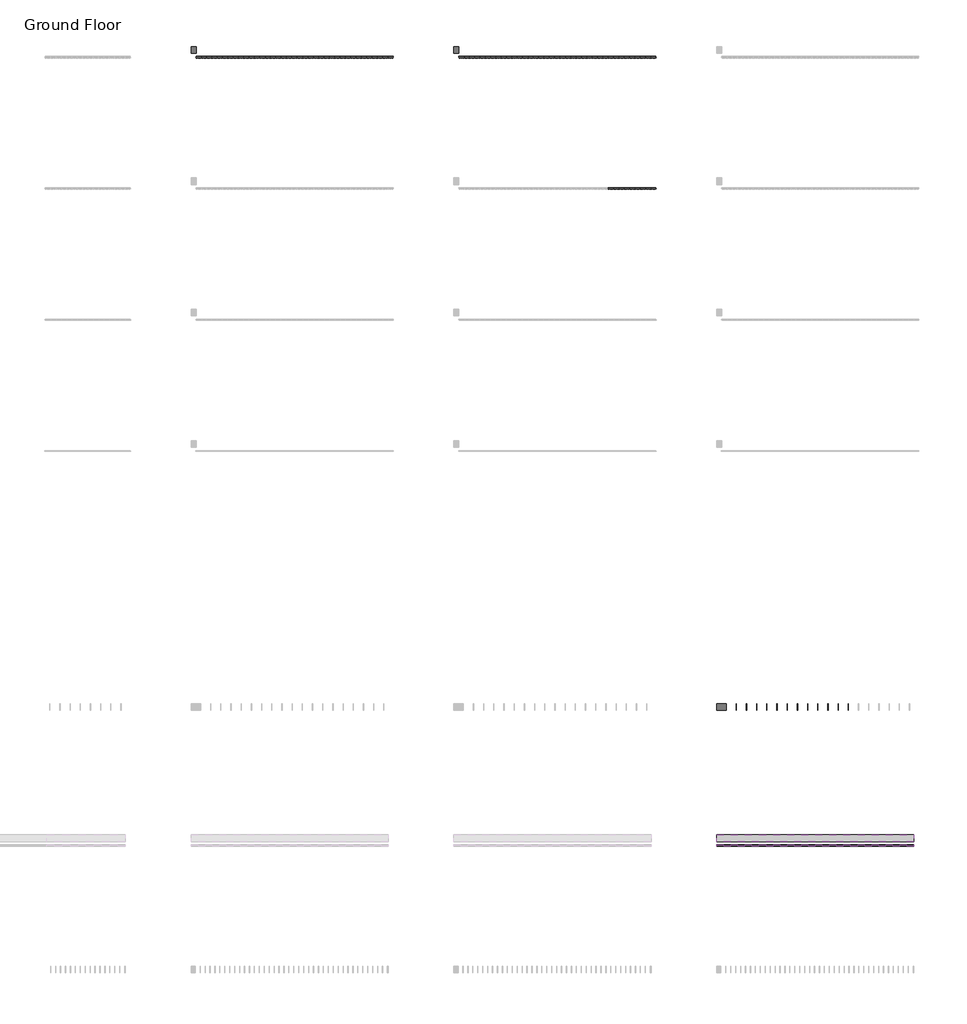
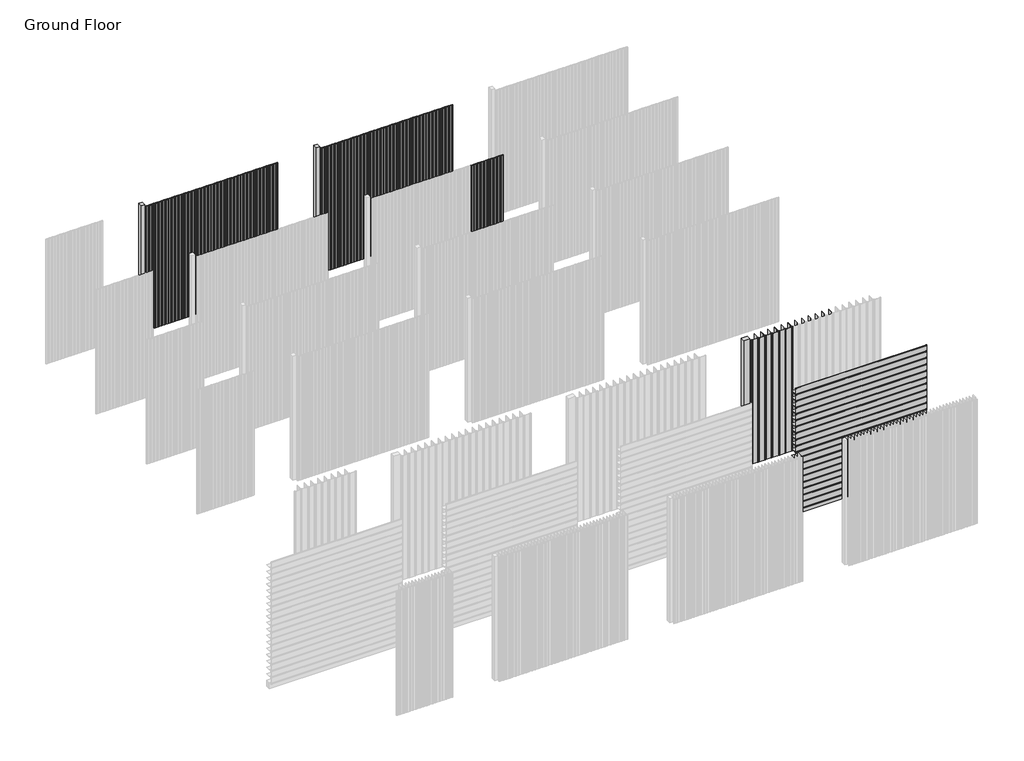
# One storey, part 43 of 350: 108 members, 34 plates.
"""IFC4 building model written with IfcOpenShell, lengths in millimetres."""

from ifc_helpers import new_model, si_unit, origin, place, context, project, spatial, transform, mapped, element, save
from components import rectangular_mullion_a9feb706, rectangular_mullion_624eee80, rectangular_mullion_eca9a012, empty_system_panel_empty_02c6fd44, empty_system_panel_empty_27b459cb, empty_system_panel_empty_b4bf5bb1, empty_system_panel_empty_81d7e91e, empty_system_panel_empty_cbd4e42b

model = new_model("IFC4")

# Units and contexts
model_context = context("Model", 3, world=origin())
ifc_project = project(units=[si_unit("LENGTHUNIT", "METRE", prefix="MILLI")], contexts=[model_context])

# Site, building, storey
site = spatial("IfcSite", under=ifc_project)
building = spatial("IfcBuilding", under=site)
storey = spatial("IfcBuildingStorey", under=building, Name="Ground Floor", Elevation=0.0)

# Members
placement = place(None, origin())
rectangular_mullion_shape = rectangular_mullion_a9feb706(model_context)
element("IfcMember", 1, ObjectType="Rectangular Mullion : Cladding_Aluminium_Modinex_AluSelekta_Channel_155_WhiteOak", at=placement, inside=storey, context=model_context, shape_type="MappedRepresentation", body=[
    mapped(rectangular_mullion_shape, transform((51916.4361639, 16968.2978302, 155.0), x_axis=(0.0, 0.0, 1.0), y_axis=(0.0, -1.0, 0.0), z_axis=(1.0, 0.0, 0.0))),
])
element("IfcMember", 2, ObjectType="Rectangular Mullion : Cladding_Aluminium_Modinex_AluSelekta_Channel_155_WhiteOak", at=placement, inside=storey, context=model_context, shape_type="MappedRepresentation", body=[
    mapped(rectangular_mullion_shape, transform((51916.4361639, 16968.2978302, 310.0), x_axis=(0.0, 0.0, 1.0), y_axis=(0.0, -1.0, 0.0), z_axis=(1.0, 0.0, 0.0))),
])
element("IfcMember", 3, ObjectType="Rectangular Mullion : Cladding_Aluminium_Modinex_AluSelekta_Channel_155_WhiteOak", at=placement, inside=storey, context=model_context, shape_type="MappedRepresentation", body=[
    mapped(rectangular_mullion_shape, transform((51916.4361639, 16968.2978302, 465.0), x_axis=(0.0, 0.0, 1.0), y_axis=(0.0, -1.0, 0.0), z_axis=(1.0, 0.0, 0.0))),
])
element("IfcMember", 4, ObjectType="Rectangular Mullion : Cladding_Aluminium_Modinex_AluSelekta_Channel_155_WhiteOak", at=placement, inside=storey, context=model_context, shape_type="MappedRepresentation", body=[
    mapped(rectangular_mullion_shape, transform((51916.4361639, 16968.2978302, 620.0), x_axis=(0.0, 0.0, 1.0), y_axis=(0.0, -1.0, 0.0), z_axis=(1.0, 0.0, 0.0))),
])
element("IfcMember", 5, ObjectType="Rectangular Mullion : Cladding_Aluminium_Modinex_AluSelekta_Channel_155_WhiteOak", at=placement, inside=storey, context=model_context, shape_type="MappedRepresentation", body=[
    mapped(rectangular_mullion_shape, transform((51916.4361639, 16968.2978302, 775.0), x_axis=(0.0, 0.0, 1.0), y_axis=(0.0, -1.0, 0.0), z_axis=(1.0, 0.0, 0.0))),
])
element("IfcMember", 6, ObjectType="Rectangular Mullion : Cladding_Aluminium_Modinex_AluSelekta_Channel_155_WhiteOak", at=placement, inside=storey, context=model_context, shape_type="MappedRepresentation", body=[
    mapped(rectangular_mullion_shape, transform((51916.4361639, 16968.2978302, 930.0), x_axis=(0.0, 0.0, 1.0), y_axis=(0.0, -1.0, 0.0), z_axis=(1.0, 0.0, 0.0))),
])
element("IfcMember", 7, ObjectType="Rectangular Mullion : Cladding_Aluminium_Modinex_AluSelekta_Channel_155_WhiteOak", at=placement, inside=storey, context=model_context, shape_type="MappedRepresentation", body=[
    mapped(rectangular_mullion_shape, transform((51916.4361639, 16968.2978302, 1085.0), x_axis=(0.0, 0.0, 1.0), y_axis=(0.0, -1.0, 0.0), z_axis=(1.0, 0.0, 0.0))),
])
element("IfcMember", 8, ObjectType="Rectangular Mullion : Cladding_Aluminium_Modinex_AluSelekta_Channel_155_WhiteOak", at=placement, inside=storey, context=model_context, shape_type="MappedRepresentation", body=[
    mapped(rectangular_mullion_shape, transform((51916.4361639, 16968.2978302, 1240.0), x_axis=(0.0, 0.0, 1.0), y_axis=(0.0, -1.0, 0.0), z_axis=(1.0, 0.0, 0.0))),
])
element("IfcMember", 9, ObjectType="Rectangular Mullion : Cladding_Aluminium_Modinex_AluSelekta_Channel_155_WhiteOak", at=placement, inside=storey, context=model_context, shape_type="MappedRepresentation", body=[
    mapped(rectangular_mullion_shape, transform((51916.4361639, 16968.2978302, 1395.0), x_axis=(0.0, 0.0, 1.0), y_axis=(0.0, -1.0, 0.0), z_axis=(1.0, 0.0, 0.0))),
])
element("IfcMember", 10, ObjectType="Rectangular Mullion : Cladding_Aluminium_Modinex_AluSelekta_Channel_155_WhiteOak", at=placement, inside=storey, context=model_context, shape_type="MappedRepresentation", body=[
    mapped(rectangular_mullion_shape, transform((51916.4361639, 16968.2978302, 1550.0), x_axis=(0.0, 0.0, 1.0), y_axis=(0.0, -1.0, 0.0), z_axis=(1.0, 0.0, 0.0))),
])
element("IfcMember", 11, ObjectType="Rectangular Mullion : Cladding_Aluminium_Modinex_AluSelekta_Channel_155_WhiteOak", at=placement, inside=storey, context=model_context, shape_type="MappedRepresentation", body=[
    mapped(rectangular_mullion_shape, transform((51916.4361639, 16968.2978302, 1705.0), x_axis=(0.0, 0.0, 1.0), y_axis=(0.0, -1.0, 0.0), z_axis=(1.0, 0.0, 0.0))),
])
element("IfcMember", 12, ObjectType="Rectangular Mullion : Cladding_Aluminium_Modinex_AluSelekta_Channel_155_WhiteOak", at=placement, inside=storey, context=model_context, shape_type="MappedRepresentation", body=[
    mapped(rectangular_mullion_shape, transform((51916.4361639, 16968.2978302, 1860.0), x_axis=(0.0, 0.0, 1.0), y_axis=(0.0, -1.0, 0.0), z_axis=(1.0, 0.0, 0.0))),
])
element("IfcMember", 13, ObjectType="Rectangular Mullion : Cladding_Aluminium_Modinex_AluSelekta_Channel_155_WhiteOak", at=placement, inside=storey, context=model_context, shape_type="MappedRepresentation", body=[
    mapped(rectangular_mullion_shape, transform((51916.4361639, 16968.2978302, 2015.0), x_axis=(0.0, 0.0, 1.0), y_axis=(0.0, -1.0, 0.0), z_axis=(1.0, 0.0, 0.0))),
])
element("IfcMember", 14, ObjectType="Rectangular Mullion : Cladding_Aluminium_Modinex_AluSelekta_Channel_155_WhiteOak", at=placement, inside=storey, context=model_context, shape_type="MappedRepresentation", body=[
    mapped(rectangular_mullion_shape, transform((51916.4361639, 16968.2978302, 2170.0), x_axis=(0.0, 0.0, 1.0), y_axis=(0.0, -1.0, 0.0), z_axis=(1.0, 0.0, 0.0))),
])
element("IfcMember", 15, ObjectType="Rectangular Mullion : Cladding_Aluminium_Modinex_AluSelekta_Channel_155_WhiteOak", at=placement, inside=storey, context=model_context, shape_type="MappedRepresentation", body=[
    mapped(rectangular_mullion_shape, transform((51916.4361639, 16968.2978302, 2325.0), x_axis=(0.0, 0.0, 1.0), y_axis=(0.0, -1.0, 0.0), z_axis=(1.0, 0.0, 0.0))),
])
element("IfcMember", 16, ObjectType="Rectangular Mullion : Cladding_Aluminium_Modinex_AluSelekta_Channel_155_WhiteOak", at=placement, inside=storey, context=model_context, shape_type="MappedRepresentation", body=[
    mapped(rectangular_mullion_shape, transform((51916.4361639, 16968.2978302, 2480.0), x_axis=(0.0, 0.0, 1.0), y_axis=(0.0, -1.0, 0.0), z_axis=(1.0, 0.0, 0.0))),
])
element("IfcMember", 17, ObjectType="Rectangular Mullion : Cladding_Aluminium_Modinex_AluSelekta_Channel_155_WhiteOak", at=placement, inside=storey, context=model_context, shape_type="MappedRepresentation", body=[
    mapped(rectangular_mullion_shape, transform((51916.4361639, 16968.2978302, 2635.0), x_axis=(0.0, 0.0, 1.0), y_axis=(0.0, -1.0, 0.0), z_axis=(1.0, 0.0, 0.0))),
])
element("IfcMember", 18, ObjectType="Rectangular Mullion : Cladding_Aluminium_Modinex_AluSelekta_Channel_155_WhiteOak", at=placement, inside=storey, context=model_context, shape_type="MappedRepresentation", body=[
    mapped(rectangular_mullion_shape, transform((51916.4361639, 16968.2978302, 2790.0), x_axis=(0.0, 0.0, 1.0), y_axis=(0.0, -1.0, 0.0), z_axis=(1.0, 0.0, 0.0))),
])
element("IfcMember", 19, ObjectType="Rectangular Mullion : Cladding_Aluminium_Modinex_AluSelekta_Channel_155_WhiteOak", at=placement, inside=storey, context=model_context, shape_type="MappedRepresentation", body=[
    mapped(rectangular_mullion_shape, transform((51916.4361639, 16968.2978302, 2945.0), x_axis=(0.0, 0.0, 1.0), y_axis=(0.0, -1.0, 0.0), z_axis=(1.0, 0.0, 0.0))),
])
element("IfcMember", 20, ObjectType="Rectangular Mullion : Cladding_Aluminium_Modinex_AluSelekta_Channel_155_WhiteOak", at=placement, inside=storey, context=model_context, shape_type="MappedRepresentation", body=[
    mapped(rectangular_mullion_shape, transform((49226.4361642, 18968.2978302, 0.0), x_axis=(1.0, 0.0, 0.0), y_axis=(0.0, -1.0, 0.0), z_axis=(0.0, 0.0, -1.0))),
])
element("IfcMember", 21, ObjectType="Rectangular Mullion : Cladding_Aluminium_Modinex_AluSelekta_Channel_155_WhiteOak", at=placement, inside=storey, context=model_context, shape_type="MappedRepresentation", body=[
    mapped(rectangular_mullion_shape, transform((49381.4361642, 18968.2978302, 0.0), x_axis=(1.0, 0.0, 0.0), y_axis=(0.0, -1.0, 0.0), z_axis=(0.0, 0.0, -1.0))),
])
element("IfcMember", 22, ObjectType="Rectangular Mullion : Cladding_Aluminium_Modinex_AluSelekta_Channel_155_WhiteOak", at=placement, inside=storey, context=model_context, shape_type="MappedRepresentation", body=[
    mapped(rectangular_mullion_shape, transform((49536.4361642, 18968.2978302, 0.0), x_axis=(1.0, 0.0, 0.0), y_axis=(0.0, -1.0, 0.0), z_axis=(0.0, 0.0, -1.0))),
])
element("IfcMember", 23, ObjectType="Rectangular Mullion : Cladding_Aluminium_Modinex_AluSelekta_Channel_155_WhiteOak", at=placement, inside=storey, context=model_context, shape_type="MappedRepresentation", body=[
    mapped(rectangular_mullion_shape, transform((49691.4361642, 18968.2978302, 0.0), x_axis=(1.0, 0.0, 0.0), y_axis=(0.0, -1.0, 0.0), z_axis=(0.0, 0.0, -1.0))),
])
element("IfcMember", 24, ObjectType="Rectangular Mullion : Cladding_Aluminium_Modinex_AluSelekta_Channel_155_WhiteOak", at=placement, inside=storey, context=model_context, shape_type="MappedRepresentation", body=[
    mapped(rectangular_mullion_shape, transform((49846.4361642, 18968.2978302, 0.0), x_axis=(1.0, 0.0, 0.0), y_axis=(0.0, -1.0, 0.0), z_axis=(0.0, 0.0, -1.0))),
])
element("IfcMember", 25, ObjectType="Rectangular Mullion : Cladding_Aluminium_Modinex_AluSelekta_Channel_155_WhiteOak", at=placement, inside=storey, context=model_context, shape_type="MappedRepresentation", body=[
    mapped(rectangular_mullion_shape, transform((49071.4361642, 18968.2978302, 0.0), x_axis=(1.0, 0.0, 0.0), y_axis=(0.0, -1.0, 0.0), z_axis=(0.0, 0.0, -1.0))),
])
rectangular_mullion_2_shape = rectangular_mullion_624eee80(model_context)
element("IfcMember", 26, ObjectType="Rectangular Mullion : Cladding_Timber_Modinex_Castelation_81x21_SpottedGum", at=placement, inside=storey, context=model_context, shape_type="MappedRepresentation", body=[
    mapped(rectangular_mullion_2_shape, transform((47265.4361642, 26968.2978302, 0.0), x_axis=(1.0, 0.0, 0.0), y_axis=(0.0, -1.0, 0.0), z_axis=(0.0, 0.0, -1.0))),
])
element("IfcMember", 27, ObjectType="Rectangular Mullion : Cladding_Timber_Modinex_Castelation_81x21_SpottedGum", at=placement, inside=storey, context=model_context, shape_type="MappedRepresentation", body=[
    mapped(rectangular_mullion_2_shape, transform((47346.4361642, 26968.2978302, 0.0), x_axis=(1.0, 0.0, 0.0), y_axis=(0.0, -1.0, 0.0), z_axis=(0.0, 0.0, -1.0))),
])
element("IfcMember", 28, ObjectType="Rectangular Mullion : Cladding_Timber_Modinex_Castelation_81x21_SpottedGum", at=placement, inside=storey, context=model_context, shape_type="MappedRepresentation", body=[
    mapped(rectangular_mullion_2_shape, transform((47427.4361642, 26968.2978302, 0.0), x_axis=(1.0, 0.0, 0.0), y_axis=(0.0, -1.0, 0.0), z_axis=(0.0, 0.0, -1.0))),
])
element("IfcMember", 29, ObjectType="Rectangular Mullion : Cladding_Timber_Modinex_Castelation_81x21_SpottedGum", at=placement, inside=storey, context=model_context, shape_type="MappedRepresentation", body=[
    mapped(rectangular_mullion_2_shape, transform((47508.4361642, 26968.2978302, 0.0), x_axis=(1.0, 0.0, 0.0), y_axis=(0.0, -1.0, 0.0), z_axis=(0.0, 0.0, -1.0))),
])
element("IfcMember", 30, ObjectType="Rectangular Mullion : Cladding_Timber_Modinex_Castelation_81x21_SpottedGum", at=placement, inside=storey, context=model_context, shape_type="MappedRepresentation", body=[
    mapped(rectangular_mullion_2_shape, transform((47589.4361642, 26968.2978302, 0.0), x_axis=(1.0, 0.0, 0.0), y_axis=(0.0, -1.0, 0.0), z_axis=(0.0, 0.0, -1.0))),
])
element("IfcMember", 31, ObjectType="Rectangular Mullion : Cladding_Timber_Modinex_Castelation_81x21_SpottedGum", at=placement, inside=storey, context=model_context, shape_type="MappedRepresentation", body=[
    mapped(rectangular_mullion_2_shape, transform((47670.4361642, 26968.2978302, 0.0), x_axis=(1.0, 0.0, 0.0), y_axis=(0.0, -1.0, 0.0), z_axis=(0.0, 0.0, -1.0))),
])
element("IfcMember", 32, ObjectType="Rectangular Mullion : Cladding_Timber_Modinex_Castelation_81x21_SpottedGum", at=placement, inside=storey, context=model_context, shape_type="MappedRepresentation", body=[
    mapped(rectangular_mullion_2_shape, transform((47751.4361642, 26968.2978302, 0.0), x_axis=(1.0, 0.0, 0.0), y_axis=(0.0, -1.0, 0.0), z_axis=(0.0, 0.0, -1.0))),
])
element("IfcMember", 33, ObjectType="Rectangular Mullion : Cladding_Timber_Modinex_Castelation_81x21_SpottedGum", at=placement, inside=storey, context=model_context, shape_type="MappedRepresentation", body=[
    mapped(rectangular_mullion_2_shape, transform((47832.4361642, 26968.2978302, 0.0), x_axis=(1.0, 0.0, 0.0), y_axis=(0.0, -1.0, 0.0), z_axis=(0.0, 0.0, -1.0))),
])
element("IfcMember", 34, ObjectType="Rectangular Mullion : Cladding_Timber_Modinex_Castelation_81x21_SpottedGum", at=placement, inside=storey, context=model_context, shape_type="MappedRepresentation", body=[
    mapped(rectangular_mullion_2_shape, transform((47913.4361642, 26968.2978302, 0.0), x_axis=(1.0, 0.0, 0.0), y_axis=(0.0, -1.0, 0.0), z_axis=(0.0, 0.0, -1.0))),
])
rectangular_mullion_3_shape = rectangular_mullion_eca9a012(model_context)
element("IfcMember", 35, ObjectType="Rectangular Mullion : Cladding_Timber_Modinex_Castelation_81x26_Ironbark", at=placement, inside=storey, context=model_context, shape_type="MappedRepresentation", body=[
    mapped(rectangular_mullion_3_shape, transform((42536.4361642, 28968.2978302, 0.0), x_axis=(1.0, 0.0, 0.0), y_axis=(0.0, -1.0, 0.0), z_axis=(0.0, 0.0, -1.0))),
])
element("IfcMember", 36, ObjectType="Rectangular Mullion : Cladding_Timber_Modinex_Castelation_81x26_Ironbark", at=placement, inside=storey, context=model_context, shape_type="MappedRepresentation", body=[
    mapped(rectangular_mullion_3_shape, transform((42617.4361642, 28968.2978302, 0.0), x_axis=(1.0, 0.0, 0.0), y_axis=(0.0, -1.0, 0.0), z_axis=(0.0, 0.0, -1.0))),
])
element("IfcMember", 37, ObjectType="Rectangular Mullion : Cladding_Timber_Modinex_Castelation_81x26_Ironbark", at=placement, inside=storey, context=model_context, shape_type="MappedRepresentation", body=[
    mapped(rectangular_mullion_3_shape, transform((42698.4361642, 28968.2978302, 0.0), x_axis=(1.0, 0.0, 0.0), y_axis=(0.0, -1.0, 0.0), z_axis=(0.0, 0.0, -1.0))),
])
element("IfcMember", 38, ObjectType="Rectangular Mullion : Cladding_Timber_Modinex_Castelation_81x26_Ironbark", at=placement, inside=storey, context=model_context, shape_type="MappedRepresentation", body=[
    mapped(rectangular_mullion_3_shape, transform((42779.4361642, 28968.2978302, 0.0), x_axis=(1.0, 0.0, 0.0), y_axis=(0.0, -1.0, 0.0), z_axis=(0.0, 0.0, -1.0))),
])
element("IfcMember", 39, ObjectType="Rectangular Mullion : Cladding_Timber_Modinex_Castelation_81x26_Ironbark", at=placement, inside=storey, context=model_context, shape_type="MappedRepresentation", body=[
    mapped(rectangular_mullion_3_shape, transform((42860.4361642, 28968.2978302, 0.0), x_axis=(1.0, 0.0, 0.0), y_axis=(0.0, -1.0, 0.0), z_axis=(0.0, 0.0, -1.0))),
])
element("IfcMember", 40, ObjectType="Rectangular Mullion : Cladding_Timber_Modinex_Castelation_81x26_Ironbark", at=placement, inside=storey, context=model_context, shape_type="MappedRepresentation", body=[
    mapped(rectangular_mullion_3_shape, transform((42941.4361642, 28968.2978302, 0.0), x_axis=(1.0, 0.0, 0.0), y_axis=(0.0, -1.0, 0.0), z_axis=(0.0, 0.0, -1.0))),
])
element("IfcMember", 41, ObjectType="Rectangular Mullion : Cladding_Timber_Modinex_Castelation_81x26_Ironbark", at=placement, inside=storey, context=model_context, shape_type="MappedRepresentation", body=[
    mapped(rectangular_mullion_3_shape, transform((43022.4361642, 28968.2978302, 0.0), x_axis=(1.0, 0.0, 0.0), y_axis=(0.0, -1.0, 0.0), z_axis=(0.0, 0.0, -1.0))),
])
element("IfcMember", 42, ObjectType="Rectangular Mullion : Cladding_Timber_Modinex_Castelation_81x26_Ironbark", at=placement, inside=storey, context=model_context, shape_type="MappedRepresentation", body=[
    mapped(rectangular_mullion_3_shape, transform((43103.4361642, 28968.2978302, 0.0), x_axis=(1.0, 0.0, 0.0), y_axis=(0.0, -1.0, 0.0), z_axis=(0.0, 0.0, -1.0))),
])
element("IfcMember", 43, ObjectType="Rectangular Mullion : Cladding_Timber_Modinex_Castelation_81x26_Ironbark", at=placement, inside=storey, context=model_context, shape_type="MappedRepresentation", body=[
    mapped(rectangular_mullion_3_shape, transform((43184.4361642, 28968.2978302, 0.0), x_axis=(1.0, 0.0, 0.0), y_axis=(0.0, -1.0, 0.0), z_axis=(0.0, 0.0, -1.0))),
])
element("IfcMember", 44, ObjectType="Rectangular Mullion : Cladding_Timber_Modinex_Castelation_81x26_Ironbark", at=placement, inside=storey, context=model_context, shape_type="MappedRepresentation", body=[
    mapped(rectangular_mullion_3_shape, transform((43265.4361642, 28968.2978302, 0.0), x_axis=(1.0, 0.0, 0.0), y_axis=(0.0, -1.0, 0.0), z_axis=(0.0, 0.0, -1.0))),
])
element("IfcMember", 45, ObjectType="Rectangular Mullion : Cladding_Timber_Modinex_Castelation_81x26_Ironbark", at=placement, inside=storey, context=model_context, shape_type="MappedRepresentation", body=[
    mapped(rectangular_mullion_3_shape, transform((43346.4361642, 28968.2978302, 0.0), x_axis=(1.0, 0.0, 0.0), y_axis=(0.0, -1.0, 0.0), z_axis=(0.0, 0.0, -1.0))),
])
element("IfcMember", 46, ObjectType="Rectangular Mullion : Cladding_Timber_Modinex_Castelation_81x26_Ironbark", at=placement, inside=storey, context=model_context, shape_type="MappedRepresentation", body=[
    mapped(rectangular_mullion_3_shape, transform((43427.4361642, 28968.2978302, 0.0), x_axis=(1.0, 0.0, 0.0), y_axis=(0.0, -1.0, 0.0), z_axis=(0.0, 0.0, -1.0))),
])
element("IfcMember", 47, ObjectType="Rectangular Mullion : Cladding_Timber_Modinex_Castelation_81x26_Ironbark", at=placement, inside=storey, context=model_context, shape_type="MappedRepresentation", body=[
    mapped(rectangular_mullion_3_shape, transform((43508.4361642, 28968.2978302, 0.0), x_axis=(1.0, 0.0, 0.0), y_axis=(0.0, -1.0, 0.0), z_axis=(0.0, 0.0, -1.0))),
])
element("IfcMember", 48, ObjectType="Rectangular Mullion : Cladding_Timber_Modinex_Castelation_81x26_Ironbark", at=placement, inside=storey, context=model_context, shape_type="MappedRepresentation", body=[
    mapped(rectangular_mullion_3_shape, transform((43589.4361642, 28968.2978302, 0.0), x_axis=(1.0, 0.0, 0.0), y_axis=(0.0, -1.0, 0.0), z_axis=(0.0, 0.0, -1.0))),
])
element("IfcMember", 49, ObjectType="Rectangular Mullion : Cladding_Timber_Modinex_Castelation_81x26_Ironbark", at=placement, inside=storey, context=model_context, shape_type="MappedRepresentation", body=[
    mapped(rectangular_mullion_3_shape, transform((43670.4361642, 28968.2978302, 0.0), x_axis=(1.0, 0.0, 0.0), y_axis=(0.0, -1.0, 0.0), z_axis=(0.0, 0.0, -1.0))),
])
element("IfcMember", 50, ObjectType="Rectangular Mullion : Cladding_Timber_Modinex_Castelation_81x26_Ironbark", at=placement, inside=storey, context=model_context, shape_type="MappedRepresentation", body=[
    mapped(rectangular_mullion_3_shape, transform((43751.4361642, 28968.2978302, 0.0), x_axis=(1.0, 0.0, 0.0), y_axis=(0.0, -1.0, 0.0), z_axis=(0.0, 0.0, -1.0))),
])
element("IfcMember", 51, ObjectType="Rectangular Mullion : Cladding_Timber_Modinex_Castelation_81x26_Ironbark", at=placement, inside=storey, context=model_context, shape_type="MappedRepresentation", body=[
    mapped(rectangular_mullion_3_shape, transform((43832.4361642, 28968.2978302, 0.0), x_axis=(1.0, 0.0, 0.0), y_axis=(0.0, -1.0, 0.0), z_axis=(0.0, 0.0, -1.0))),
])
element("IfcMember", 52, ObjectType="Rectangular Mullion : Cladding_Timber_Modinex_Castelation_81x26_Ironbark", at=placement, inside=storey, context=model_context, shape_type="MappedRepresentation", body=[
    mapped(rectangular_mullion_3_shape, transform((43913.4361642, 28968.2978302, 0.0), x_axis=(1.0, 0.0, 0.0), y_axis=(0.0, -1.0, 0.0), z_axis=(0.0, 0.0, -1.0))),
])
element("IfcMember", 53, ObjectType="Rectangular Mullion : Cladding_Timber_Modinex_Castelation_81x26_Ironbark", at=placement, inside=storey, context=model_context, shape_type="MappedRepresentation", body=[
    mapped(rectangular_mullion_3_shape, transform((42455.4361642, 28968.2978302, 0.0), x_axis=(1.0, 0.0, 0.0), y_axis=(0.0, -1.0, 0.0), z_axis=(0.0, 0.0, -1.0))),
])
element("IfcMember", 54, ObjectType="Rectangular Mullion : Cladding_Timber_Modinex_Castelation_81x26_Ironbark", at=placement, inside=storey, context=model_context, shape_type="MappedRepresentation", body=[
    mapped(rectangular_mullion_3_shape, transform((42374.4361642, 28968.2978302, 0.0), x_axis=(1.0, 0.0, 0.0), y_axis=(0.0, -1.0, 0.0), z_axis=(0.0, 0.0, -1.0))),
])
element("IfcMember", 55, ObjectType="Rectangular Mullion : Cladding_Timber_Modinex_Castelation_81x26_Ironbark", at=placement, inside=storey, context=model_context, shape_type="MappedRepresentation", body=[
    mapped(rectangular_mullion_3_shape, transform((42293.4361642, 28968.2978302, 0.0), x_axis=(1.0, 0.0, 0.0), y_axis=(0.0, -1.0, 0.0), z_axis=(0.0, 0.0, -1.0))),
])
element("IfcMember", 56, ObjectType="Rectangular Mullion : Cladding_Timber_Modinex_Castelation_81x26_Ironbark", at=placement, inside=storey, context=model_context, shape_type="MappedRepresentation", body=[
    mapped(rectangular_mullion_3_shape, transform((42212.4361642, 28968.2978302, 0.0), x_axis=(1.0, 0.0, 0.0), y_axis=(0.0, -1.0, 0.0), z_axis=(0.0, 0.0, -1.0))),
])
element("IfcMember", 57, ObjectType="Rectangular Mullion : Cladding_Timber_Modinex_Castelation_81x26_Ironbark", at=placement, inside=storey, context=model_context, shape_type="MappedRepresentation", body=[
    mapped(rectangular_mullion_3_shape, transform((42131.4361642, 28968.2978302, 0.0), x_axis=(1.0, 0.0, 0.0), y_axis=(0.0, -1.0, 0.0), z_axis=(0.0, 0.0, -1.0))),
])
element("IfcMember", 58, ObjectType="Rectangular Mullion : Cladding_Timber_Modinex_Castelation_81x26_Ironbark", at=placement, inside=storey, context=model_context, shape_type="MappedRepresentation", body=[
    mapped(rectangular_mullion_3_shape, transform((42050.4361642, 28968.2978302, 0.0), x_axis=(1.0, 0.0, 0.0), y_axis=(0.0, -1.0, 0.0), z_axis=(0.0, 0.0, -1.0))),
])
element("IfcMember", 59, ObjectType="Rectangular Mullion : Cladding_Timber_Modinex_Castelation_81x26_Ironbark", at=placement, inside=storey, context=model_context, shape_type="MappedRepresentation", body=[
    mapped(rectangular_mullion_3_shape, transform((41969.4361642, 28968.2978302, 0.0), x_axis=(1.0, 0.0, 0.0), y_axis=(0.0, -1.0, 0.0), z_axis=(0.0, 0.0, -1.0))),
])
element("IfcMember", 60, ObjectType="Rectangular Mullion : Cladding_Timber_Modinex_Castelation_81x26_Ironbark", at=placement, inside=storey, context=model_context, shape_type="MappedRepresentation", body=[
    mapped(rectangular_mullion_3_shape, transform((41888.4361642, 28968.2978302, 0.0), x_axis=(1.0, 0.0, 0.0), y_axis=(0.0, -1.0, 0.0), z_axis=(0.0, 0.0, -1.0))),
])
element("IfcMember", 61, ObjectType="Rectangular Mullion : Cladding_Timber_Modinex_Castelation_81x26_Ironbark", at=placement, inside=storey, context=model_context, shape_type="MappedRepresentation", body=[
    mapped(rectangular_mullion_3_shape, transform((41807.4361642, 28968.2978302, 0.0), x_axis=(1.0, 0.0, 0.0), y_axis=(0.0, -1.0, 0.0), z_axis=(0.0, 0.0, -1.0))),
])
element("IfcMember", 62, ObjectType="Rectangular Mullion : Cladding_Timber_Modinex_Castelation_81x26_Ironbark", at=placement, inside=storey, context=model_context, shape_type="MappedRepresentation", body=[
    mapped(rectangular_mullion_3_shape, transform((41726.4361642, 28968.2978302, 0.0), x_axis=(1.0, 0.0, 0.0), y_axis=(0.0, -1.0, 0.0), z_axis=(0.0, 0.0, -1.0))),
])
element("IfcMember", 63, ObjectType="Rectangular Mullion : Cladding_Timber_Modinex_Castelation_81x26_Ironbark", at=placement, inside=storey, context=model_context, shape_type="MappedRepresentation", body=[
    mapped(rectangular_mullion_3_shape, transform((41645.4361642, 28968.2978302, 0.0), x_axis=(1.0, 0.0, 0.0), y_axis=(0.0, -1.0, 0.0), z_axis=(0.0, 0.0, -1.0))),
])
element("IfcMember", 64, ObjectType="Rectangular Mullion : Cladding_Timber_Modinex_Castelation_81x26_Ironbark", at=placement, inside=storey, context=model_context, shape_type="MappedRepresentation", body=[
    mapped(rectangular_mullion_3_shape, transform((41564.4361642, 28968.2978302, 0.0), x_axis=(1.0, 0.0, 0.0), y_axis=(0.0, -1.0, 0.0), z_axis=(0.0, 0.0, -1.0))),
])
element("IfcMember", 65, ObjectType="Rectangular Mullion : Cladding_Timber_Modinex_Castelation_81x26_Ironbark", at=placement, inside=storey, context=model_context, shape_type="MappedRepresentation", body=[
    mapped(rectangular_mullion_3_shape, transform((41483.4361642, 28968.2978302, 0.0), x_axis=(1.0, 0.0, 0.0), y_axis=(0.0, -1.0, 0.0), z_axis=(0.0, 0.0, -1.0))),
])
element("IfcMember", 66, ObjectType="Rectangular Mullion : Cladding_Timber_Modinex_Castelation_81x26_Ironbark", at=placement, inside=storey, context=model_context, shape_type="MappedRepresentation", body=[
    mapped(rectangular_mullion_3_shape, transform((41402.4361642, 28968.2978302, 0.0), x_axis=(1.0, 0.0, 0.0), y_axis=(0.0, -1.0, 0.0), z_axis=(0.0, 0.0, -1.0))),
])
element("IfcMember", 67, ObjectType="Rectangular Mullion : Cladding_Timber_Modinex_Castelation_81x26_Ironbark", at=placement, inside=storey, context=model_context, shape_type="MappedRepresentation", body=[
    mapped(rectangular_mullion_3_shape, transform((41321.4361642, 28968.2978302, 0.0), x_axis=(1.0, 0.0, 0.0), y_axis=(0.0, -1.0, 0.0), z_axis=(0.0, 0.0, -1.0))),
])
element("IfcMember", 68, ObjectType="Rectangular Mullion : Cladding_Timber_Modinex_Castelation_81x26_Ironbark", at=placement, inside=storey, context=model_context, shape_type="MappedRepresentation", body=[
    mapped(rectangular_mullion_3_shape, transform((41240.4361642, 28968.2978302, 0.0), x_axis=(1.0, 0.0, 0.0), y_axis=(0.0, -1.0, 0.0), z_axis=(0.0, 0.0, -1.0))),
])
element("IfcMember", 69, ObjectType="Rectangular Mullion : Cladding_Timber_Modinex_Castelation_81x26_Ironbark", at=placement, inside=storey, context=model_context, shape_type="MappedRepresentation", body=[
    mapped(rectangular_mullion_3_shape, transform((41159.4361642, 28968.2978302, 0.0), x_axis=(1.0, 0.0, 0.0), y_axis=(0.0, -1.0, 0.0), z_axis=(0.0, 0.0, -1.0))),
])
element("IfcMember", 70, ObjectType="Rectangular Mullion : Cladding_Timber_Modinex_Castelation_81x26_Ironbark", at=placement, inside=storey, context=model_context, shape_type="MappedRepresentation", body=[
    mapped(rectangular_mullion_3_shape, transform((41078.4361642, 28968.2978302, 0.0), x_axis=(1.0, 0.0, 0.0), y_axis=(0.0, -1.0, 0.0), z_axis=(0.0, 0.0, -1.0))),
])
element("IfcMember", 71, ObjectType="Rectangular Mullion : Cladding_Timber_Modinex_Castelation_81x26_Ironbark", at=placement, inside=storey, context=model_context, shape_type="MappedRepresentation", body=[
    mapped(rectangular_mullion_3_shape, transform((40997.4361642, 28968.2978302, 0.0), x_axis=(1.0, 0.0, 0.0), y_axis=(0.0, -1.0, 0.0), z_axis=(0.0, 0.0, -1.0))),
])
element("IfcMember", 72, ObjectType="Rectangular Mullion : Cladding_Timber_Modinex_Castelation_81x26_SpottedGum", at=placement, inside=storey, context=model_context, shape_type="MappedRepresentation", body=[
    mapped(rectangular_mullion_3_shape, transform((46536.4361642, 28968.2978302, 0.0), x_axis=(1.0, 0.0, 0.0), y_axis=(0.0, -1.0, 0.0), z_axis=(0.0, 0.0, -1.0))),
])
element("IfcMember", 73, ObjectType="Rectangular Mullion : Cladding_Timber_Modinex_Castelation_81x26_SpottedGum", at=placement, inside=storey, context=model_context, shape_type="MappedRepresentation", body=[
    mapped(rectangular_mullion_3_shape, transform((46617.4361642, 28968.2978302, 0.0), x_axis=(1.0, 0.0, 0.0), y_axis=(0.0, -1.0, 0.0), z_axis=(0.0, 0.0, -1.0))),
])
element("IfcMember", 74, ObjectType="Rectangular Mullion : Cladding_Timber_Modinex_Castelation_81x26_SpottedGum", at=placement, inside=storey, context=model_context, shape_type="MappedRepresentation", body=[
    mapped(rectangular_mullion_3_shape, transform((46698.4361642, 28968.2978302, 0.0), x_axis=(1.0, 0.0, 0.0), y_axis=(0.0, -1.0, 0.0), z_axis=(0.0, 0.0, -1.0))),
])
element("IfcMember", 75, ObjectType="Rectangular Mullion : Cladding_Timber_Modinex_Castelation_81x26_SpottedGum", at=placement, inside=storey, context=model_context, shape_type="MappedRepresentation", body=[
    mapped(rectangular_mullion_3_shape, transform((46779.4361642, 28968.2978302, 0.0), x_axis=(1.0, 0.0, 0.0), y_axis=(0.0, -1.0, 0.0), z_axis=(0.0, 0.0, -1.0))),
])
element("IfcMember", 76, ObjectType="Rectangular Mullion : Cladding_Timber_Modinex_Castelation_81x26_SpottedGum", at=placement, inside=storey, context=model_context, shape_type="MappedRepresentation", body=[
    mapped(rectangular_mullion_3_shape, transform((46860.4361642, 28968.2978302, 0.0), x_axis=(1.0, 0.0, 0.0), y_axis=(0.0, -1.0, 0.0), z_axis=(0.0, 0.0, -1.0))),
])
element("IfcMember", 77, ObjectType="Rectangular Mullion : Cladding_Timber_Modinex_Castelation_81x26_SpottedGum", at=placement, inside=storey, context=model_context, shape_type="MappedRepresentation", body=[
    mapped(rectangular_mullion_3_shape, transform((46941.4361642, 28968.2978302, 0.0), x_axis=(1.0, 0.0, 0.0), y_axis=(0.0, -1.0, 0.0), z_axis=(0.0, 0.0, -1.0))),
])
element("IfcMember", 78, ObjectType="Rectangular Mullion : Cladding_Timber_Modinex_Castelation_81x26_SpottedGum", at=placement, inside=storey, context=model_context, shape_type="MappedRepresentation", body=[
    mapped(rectangular_mullion_3_shape, transform((47022.4361642, 28968.2978302, 0.0), x_axis=(1.0, 0.0, 0.0), y_axis=(0.0, -1.0, 0.0), z_axis=(0.0, 0.0, -1.0))),
])
element("IfcMember", 79, ObjectType="Rectangular Mullion : Cladding_Timber_Modinex_Castelation_81x26_SpottedGum", at=placement, inside=storey, context=model_context, shape_type="MappedRepresentation", body=[
    mapped(rectangular_mullion_3_shape, transform((47103.4361642, 28968.2978302, 0.0), x_axis=(1.0, 0.0, 0.0), y_axis=(0.0, -1.0, 0.0), z_axis=(0.0, 0.0, -1.0))),
])
element("IfcMember", 80, ObjectType="Rectangular Mullion : Cladding_Timber_Modinex_Castelation_81x26_SpottedGum", at=placement, inside=storey, context=model_context, shape_type="MappedRepresentation", body=[
    mapped(rectangular_mullion_3_shape, transform((47184.4361642, 28968.2978302, 0.0), x_axis=(1.0, 0.0, 0.0), y_axis=(0.0, -1.0, 0.0), z_axis=(0.0, 0.0, -1.0))),
])
element("IfcMember", 81, ObjectType="Rectangular Mullion : Cladding_Timber_Modinex_Castelation_81x26_SpottedGum", at=placement, inside=storey, context=model_context, shape_type="MappedRepresentation", body=[
    mapped(rectangular_mullion_3_shape, transform((47265.4361642, 28968.2978302, 0.0), x_axis=(1.0, 0.0, 0.0), y_axis=(0.0, -1.0, 0.0), z_axis=(0.0, 0.0, -1.0))),
])
element("IfcMember", 82, ObjectType="Rectangular Mullion : Cladding_Timber_Modinex_Castelation_81x26_SpottedGum", at=placement, inside=storey, context=model_context, shape_type="MappedRepresentation", body=[
    mapped(rectangular_mullion_3_shape, transform((47346.4361642, 28968.2978302, 0.0), x_axis=(1.0, 0.0, 0.0), y_axis=(0.0, -1.0, 0.0), z_axis=(0.0, 0.0, -1.0))),
])
element("IfcMember", 83, ObjectType="Rectangular Mullion : Cladding_Timber_Modinex_Castelation_81x26_SpottedGum", at=placement, inside=storey, context=model_context, shape_type="MappedRepresentation", body=[
    mapped(rectangular_mullion_3_shape, transform((47427.4361642, 28968.2978302, 0.0), x_axis=(1.0, 0.0, 0.0), y_axis=(0.0, -1.0, 0.0), z_axis=(0.0, 0.0, -1.0))),
])
element("IfcMember", 84, ObjectType="Rectangular Mullion : Cladding_Timber_Modinex_Castelation_81x26_SpottedGum", at=placement, inside=storey, context=model_context, shape_type="MappedRepresentation", body=[
    mapped(rectangular_mullion_3_shape, transform((47508.4361642, 28968.2978302, 0.0), x_axis=(1.0, 0.0, 0.0), y_axis=(0.0, -1.0, 0.0), z_axis=(0.0, 0.0, -1.0))),
])
element("IfcMember", 85, ObjectType="Rectangular Mullion : Cladding_Timber_Modinex_Castelation_81x26_SpottedGum", at=placement, inside=storey, context=model_context, shape_type="MappedRepresentation", body=[
    mapped(rectangular_mullion_3_shape, transform((47589.4361642, 28968.2978302, 0.0), x_axis=(1.0, 0.0, 0.0), y_axis=(0.0, -1.0, 0.0), z_axis=(0.0, 0.0, -1.0))),
])
element("IfcMember", 86, ObjectType="Rectangular Mullion : Cladding_Timber_Modinex_Castelation_81x26_SpottedGum", at=placement, inside=storey, context=model_context, shape_type="MappedRepresentation", body=[
    mapped(rectangular_mullion_3_shape, transform((47670.4361642, 28968.2978302, 0.0), x_axis=(1.0, 0.0, 0.0), y_axis=(0.0, -1.0, 0.0), z_axis=(0.0, 0.0, -1.0))),
])
element("IfcMember", 87, ObjectType="Rectangular Mullion : Cladding_Timber_Modinex_Castelation_81x26_SpottedGum", at=placement, inside=storey, context=model_context, shape_type="MappedRepresentation", body=[
    mapped(rectangular_mullion_3_shape, transform((47751.4361642, 28968.2978302, 0.0), x_axis=(1.0, 0.0, 0.0), y_axis=(0.0, -1.0, 0.0), z_axis=(0.0, 0.0, -1.0))),
])
element("IfcMember", 88, ObjectType="Rectangular Mullion : Cladding_Timber_Modinex_Castelation_81x26_SpottedGum", at=placement, inside=storey, context=model_context, shape_type="MappedRepresentation", body=[
    mapped(rectangular_mullion_3_shape, transform((47832.4361642, 28968.2978302, 0.0), x_axis=(1.0, 0.0, 0.0), y_axis=(0.0, -1.0, 0.0), z_axis=(0.0, 0.0, -1.0))),
])
element("IfcMember", 89, ObjectType="Rectangular Mullion : Cladding_Timber_Modinex_Castelation_81x26_SpottedGum", at=placement, inside=storey, context=model_context, shape_type="MappedRepresentation", body=[
    mapped(rectangular_mullion_3_shape, transform((47913.4361642, 28968.2978302, 0.0), x_axis=(1.0, 0.0, 0.0), y_axis=(0.0, -1.0, 0.0), z_axis=(0.0, 0.0, -1.0))),
])
element("IfcMember", 90, ObjectType="Rectangular Mullion : Cladding_Timber_Modinex_Castelation_81x26_SpottedGum", at=placement, inside=storey, context=model_context, shape_type="MappedRepresentation", body=[
    mapped(rectangular_mullion_3_shape, transform((46455.4361642, 28968.2978302, 0.0), x_axis=(1.0, 0.0, 0.0), y_axis=(0.0, -1.0, 0.0), z_axis=(0.0, 0.0, -1.0))),
])
element("IfcMember", 91, ObjectType="Rectangular Mullion : Cladding_Timber_Modinex_Castelation_81x26_SpottedGum", at=placement, inside=storey, context=model_context, shape_type="MappedRepresentation", body=[
    mapped(rectangular_mullion_3_shape, transform((46374.4361642, 28968.2978302, 0.0), x_axis=(1.0, 0.0, 0.0), y_axis=(0.0, -1.0, 0.0), z_axis=(0.0, 0.0, -1.0))),
])
element("IfcMember", 92, ObjectType="Rectangular Mullion : Cladding_Timber_Modinex_Castelation_81x26_SpottedGum", at=placement, inside=storey, context=model_context, shape_type="MappedRepresentation", body=[
    mapped(rectangular_mullion_3_shape, transform((46293.4361642, 28968.2978302, 0.0), x_axis=(1.0, 0.0, 0.0), y_axis=(0.0, -1.0, 0.0), z_axis=(0.0, 0.0, -1.0))),
])
element("IfcMember", 93, ObjectType="Rectangular Mullion : Cladding_Timber_Modinex_Castelation_81x26_SpottedGum", at=placement, inside=storey, context=model_context, shape_type="MappedRepresentation", body=[
    mapped(rectangular_mullion_3_shape, transform((46212.4361642, 28968.2978302, 0.0), x_axis=(1.0, 0.0, 0.0), y_axis=(0.0, -1.0, 0.0), z_axis=(0.0, 0.0, -1.0))),
])
element("IfcMember", 94, ObjectType="Rectangular Mullion : Cladding_Timber_Modinex_Castelation_81x26_SpottedGum", at=placement, inside=storey, context=model_context, shape_type="MappedRepresentation", body=[
    mapped(rectangular_mullion_3_shape, transform((46131.4361642, 28968.2978302, 0.0), x_axis=(1.0, 0.0, 0.0), y_axis=(0.0, -1.0, 0.0), z_axis=(0.0, 0.0, -1.0))),
])
element("IfcMember", 95, ObjectType="Rectangular Mullion : Cladding_Timber_Modinex_Castelation_81x26_SpottedGum", at=placement, inside=storey, context=model_context, shape_type="MappedRepresentation", body=[
    mapped(rectangular_mullion_3_shape, transform((46050.4361642, 28968.2978302, 0.0), x_axis=(1.0, 0.0, 0.0), y_axis=(0.0, -1.0, 0.0), z_axis=(0.0, 0.0, -1.0))),
])
element("IfcMember", 96, ObjectType="Rectangular Mullion : Cladding_Timber_Modinex_Castelation_81x26_SpottedGum", at=placement, inside=storey, context=model_context, shape_type="MappedRepresentation", body=[
    mapped(rectangular_mullion_3_shape, transform((45969.4361642, 28968.2978302, 0.0), x_axis=(1.0, 0.0, 0.0), y_axis=(0.0, -1.0, 0.0), z_axis=(0.0, 0.0, -1.0))),
])
element("IfcMember", 97, ObjectType="Rectangular Mullion : Cladding_Timber_Modinex_Castelation_81x26_SpottedGum", at=placement, inside=storey, context=model_context, shape_type="MappedRepresentation", body=[
    mapped(rectangular_mullion_3_shape, transform((45888.4361642, 28968.2978302, 0.0), x_axis=(1.0, 0.0, 0.0), y_axis=(0.0, -1.0, 0.0), z_axis=(0.0, 0.0, -1.0))),
])
element("IfcMember", 98, ObjectType="Rectangular Mullion : Cladding_Timber_Modinex_Castelation_81x26_SpottedGum", at=placement, inside=storey, context=model_context, shape_type="MappedRepresentation", body=[
    mapped(rectangular_mullion_3_shape, transform((45807.4361642, 28968.2978302, 0.0), x_axis=(1.0, 0.0, 0.0), y_axis=(0.0, -1.0, 0.0), z_axis=(0.0, 0.0, -1.0))),
])
element("IfcMember", 99, ObjectType="Rectangular Mullion : Cladding_Timber_Modinex_Castelation_81x26_SpottedGum", at=placement, inside=storey, context=model_context, shape_type="MappedRepresentation", body=[
    mapped(rectangular_mullion_3_shape, transform((45726.4361642, 28968.2978302, 0.0), x_axis=(1.0, 0.0, 0.0), y_axis=(0.0, -1.0, 0.0), z_axis=(0.0, 0.0, -1.0))),
])
element("IfcMember", 100, ObjectType="Rectangular Mullion : Cladding_Timber_Modinex_Castelation_81x26_SpottedGum", at=placement, inside=storey, context=model_context, shape_type="MappedRepresentation", body=[
    mapped(rectangular_mullion_3_shape, transform((45645.4361642, 28968.2978302, 0.0), x_axis=(1.0, 0.0, 0.0), y_axis=(0.0, -1.0, 0.0), z_axis=(0.0, 0.0, -1.0))),
])
element("IfcMember", 101, ObjectType="Rectangular Mullion : Cladding_Timber_Modinex_Castelation_81x26_SpottedGum", at=placement, inside=storey, context=model_context, shape_type="MappedRepresentation", body=[
    mapped(rectangular_mullion_3_shape, transform((45564.4361642, 28968.2978302, 0.0), x_axis=(1.0, 0.0, 0.0), y_axis=(0.0, -1.0, 0.0), z_axis=(0.0, 0.0, -1.0))),
])
element("IfcMember", 102, ObjectType="Rectangular Mullion : Cladding_Timber_Modinex_Castelation_81x26_SpottedGum", at=placement, inside=storey, context=model_context, shape_type="MappedRepresentation", body=[
    mapped(rectangular_mullion_3_shape, transform((45483.4361642, 28968.2978302, 0.0), x_axis=(1.0, 0.0, 0.0), y_axis=(0.0, -1.0, 0.0), z_axis=(0.0, 0.0, -1.0))),
])
element("IfcMember", 103, ObjectType="Rectangular Mullion : Cladding_Timber_Modinex_Castelation_81x26_SpottedGum", at=placement, inside=storey, context=model_context, shape_type="MappedRepresentation", body=[
    mapped(rectangular_mullion_3_shape, transform((45402.4361642, 28968.2978302, 0.0), x_axis=(1.0, 0.0, 0.0), y_axis=(0.0, -1.0, 0.0), z_axis=(0.0, 0.0, -1.0))),
])
element("IfcMember", 104, ObjectType="Rectangular Mullion : Cladding_Timber_Modinex_Castelation_81x26_SpottedGum", at=placement, inside=storey, context=model_context, shape_type="MappedRepresentation", body=[
    mapped(rectangular_mullion_3_shape, transform((45321.4361642, 28968.2978302, 0.0), x_axis=(1.0, 0.0, 0.0), y_axis=(0.0, -1.0, 0.0), z_axis=(0.0, 0.0, -1.0))),
])
element("IfcMember", 105, ObjectType="Rectangular Mullion : Cladding_Timber_Modinex_Castelation_81x26_SpottedGum", at=placement, inside=storey, context=model_context, shape_type="MappedRepresentation", body=[
    mapped(rectangular_mullion_3_shape, transform((45240.4361642, 28968.2978302, 0.0), x_axis=(1.0, 0.0, 0.0), y_axis=(0.0, -1.0, 0.0), z_axis=(0.0, 0.0, -1.0))),
])
element("IfcMember", 106, ObjectType="Rectangular Mullion : Cladding_Timber_Modinex_Castelation_81x26_SpottedGum", at=placement, inside=storey, context=model_context, shape_type="MappedRepresentation", body=[
    mapped(rectangular_mullion_3_shape, transform((45159.4361642, 28968.2978302, 0.0), x_axis=(1.0, 0.0, 0.0), y_axis=(0.0, -1.0, 0.0), z_axis=(0.0, 0.0, -1.0))),
])
element("IfcMember", 107, ObjectType="Rectangular Mullion : Cladding_Timber_Modinex_Castelation_81x26_SpottedGum", at=placement, inside=storey, context=model_context, shape_type="MappedRepresentation", body=[
    mapped(rectangular_mullion_3_shape, transform((45078.4361642, 28968.2978302, 0.0), x_axis=(1.0, 0.0, 0.0), y_axis=(0.0, -1.0, 0.0), z_axis=(0.0, 0.0, -1.0))),
])
element("IfcMember", 108, ObjectType="Rectangular Mullion : Cladding_Timber_Modinex_Castelation_81x26_SpottedGum", at=placement, inside=storey, context=model_context, shape_type="MappedRepresentation", body=[
    mapped(rectangular_mullion_3_shape, transform((44997.4361642, 28968.2978302, 0.0), x_axis=(1.0, 0.0, 0.0), y_axis=(0.0, -1.0, 0.0), z_axis=(0.0, 0.0, -1.0))),
])

# Plates
empty_system_panel_empty_shape = empty_system_panel_empty_02c6fd44(model_context)
element("IfcPlate", 109, ObjectType="Empty System Panel : Empty", at=placement, inside=storey, context=model_context, shape_type="MappedRepresentation", body=[
    mapped(empty_system_panel_empty_shape, transform((50416.4361639, 16968.2978302, 297.2580963), x_axis=(1.0, 0.0, 0.0), y_axis=(0.0, 1.0, 0.0), z_axis=(0.0, 0.0, 1.0))),
])
element("IfcPlate", 110, ObjectType="Empty System Panel : Empty", at=placement, inside=storey, context=model_context, shape_type="MappedRepresentation", body=[
    mapped(empty_system_panel_empty_shape, transform((50416.4361639, 16968.2978302, 452.2580963), x_axis=(1.0, 0.0, 0.0), y_axis=(0.0, 1.0, 0.0), z_axis=(0.0, 0.0, 1.0))),
])
element("IfcPlate", 111, ObjectType="Empty System Panel : Empty", at=placement, inside=storey, context=model_context, shape_type="MappedRepresentation", body=[
    mapped(empty_system_panel_empty_shape, transform((50416.4361639, 16968.2978302, 607.2580963), x_axis=(1.0, 0.0, 0.0), y_axis=(0.0, 1.0, 0.0), z_axis=(0.0, 0.0, 1.0))),
])
element("IfcPlate", 112, ObjectType="Empty System Panel : Empty", at=placement, inside=storey, context=model_context, shape_type="MappedRepresentation", body=[
    mapped(empty_system_panel_empty_shape, transform((50416.4361639, 16968.2978302, 762.2580963), x_axis=(1.0, 0.0, 0.0), y_axis=(0.0, 1.0, 0.0), z_axis=(0.0, 0.0, 1.0))),
])
element("IfcPlate", 113, ObjectType="Empty System Panel : Empty", at=placement, inside=storey, context=model_context, shape_type="MappedRepresentation", body=[
    mapped(empty_system_panel_empty_shape, transform((50416.4361639, 16968.2978302, 917.2580963), x_axis=(1.0, 0.0, 0.0), y_axis=(0.0, 1.0, 0.0), z_axis=(0.0, 0.0, 1.0))),
])
element("IfcPlate", 114, ObjectType="Empty System Panel : Empty", at=placement, inside=storey, context=model_context, shape_type="MappedRepresentation", body=[
    mapped(empty_system_panel_empty_shape, transform((50416.4361639, 16968.2978302, 1072.2580963), x_axis=(1.0, 0.0, 0.0), y_axis=(0.0, 1.0, 0.0), z_axis=(0.0, 0.0, 1.0))),
])
element("IfcPlate", 115, ObjectType="Empty System Panel : Empty", at=placement, inside=storey, context=model_context, shape_type="MappedRepresentation", body=[
    mapped(empty_system_panel_empty_shape, transform((50416.4361639, 16968.2978302, 1227.2580963), x_axis=(1.0, 0.0, 0.0), y_axis=(0.0, 1.0, 0.0), z_axis=(0.0, 0.0, 1.0))),
])
element("IfcPlate", 116, ObjectType="Empty System Panel : Empty", at=placement, inside=storey, context=model_context, shape_type="MappedRepresentation", body=[
    mapped(empty_system_panel_empty_shape, transform((50416.4361639, 16968.2978302, 1382.2580963), x_axis=(1.0, 0.0, 0.0), y_axis=(0.0, 1.0, 0.0), z_axis=(0.0, 0.0, 1.0))),
])
element("IfcPlate", 117, ObjectType="Empty System Panel : Empty", at=placement, inside=storey, context=model_context, shape_type="MappedRepresentation", body=[
    mapped(empty_system_panel_empty_shape, transform((50416.4361639, 16968.2978302, 1537.2580963), x_axis=(1.0, 0.0, 0.0), y_axis=(0.0, 1.0, 0.0), z_axis=(0.0, 0.0, 1.0))),
])
element("IfcPlate", 118, ObjectType="Empty System Panel : Empty", at=placement, inside=storey, context=model_context, shape_type="MappedRepresentation", body=[
    mapped(empty_system_panel_empty_shape, transform((50416.4361639, 16968.2978302, 1692.2580963), x_axis=(1.0, 0.0, 0.0), y_axis=(0.0, 1.0, 0.0), z_axis=(0.0, 0.0, 1.0))),
])
element("IfcPlate", 119, ObjectType="Empty System Panel : Empty", at=placement, inside=storey, context=model_context, shape_type="MappedRepresentation", body=[
    mapped(empty_system_panel_empty_shape, transform((50416.4361639, 16968.2978302, 1847.2580963), x_axis=(1.0, 0.0, 0.0), y_axis=(0.0, 1.0, 0.0), z_axis=(0.0, 0.0, 1.0))),
])
element("IfcPlate", 120, ObjectType="Empty System Panel : Empty", at=placement, inside=storey, context=model_context, shape_type="MappedRepresentation", body=[
    mapped(empty_system_panel_empty_shape, transform((50416.4361639, 16968.2978302, 2002.2580963), x_axis=(1.0, 0.0, 0.0), y_axis=(0.0, 1.0, 0.0), z_axis=(0.0, 0.0, 1.0))),
])
element("IfcPlate", 121, ObjectType="Empty System Panel : Empty", at=placement, inside=storey, context=model_context, shape_type="MappedRepresentation", body=[
    mapped(empty_system_panel_empty_shape, transform((50416.4361639, 16968.2978302, 2157.2580963), x_axis=(1.0, 0.0, 0.0), y_axis=(0.0, 1.0, 0.0), z_axis=(0.0, 0.0, 1.0))),
])
element("IfcPlate", 122, ObjectType="Empty System Panel : Empty", at=placement, inside=storey, context=model_context, shape_type="MappedRepresentation", body=[
    mapped(empty_system_panel_empty_shape, transform((50416.4361639, 16968.2978302, 2312.2580963), x_axis=(1.0, 0.0, 0.0), y_axis=(0.0, 1.0, 0.0), z_axis=(0.0, 0.0, 1.0))),
])
element("IfcPlate", 123, ObjectType="Empty System Panel : Empty", at=placement, inside=storey, context=model_context, shape_type="MappedRepresentation", body=[
    mapped(empty_system_panel_empty_shape, transform((50416.4361639, 16968.2978302, 2467.2580963), x_axis=(1.0, 0.0, 0.0), y_axis=(0.0, 1.0, 0.0), z_axis=(0.0, 0.0, 1.0))),
])
element("IfcPlate", 124, ObjectType="Empty System Panel : Empty", at=placement, inside=storey, context=model_context, shape_type="MappedRepresentation", body=[
    mapped(empty_system_panel_empty_shape, transform((50416.4361639, 16968.2978302, 2622.2580963), x_axis=(1.0, 0.0, 0.0), y_axis=(0.0, 1.0, 0.0), z_axis=(0.0, 0.0, 1.0))),
])
element("IfcPlate", 125, ObjectType="Empty System Panel : Empty", at=placement, inside=storey, context=model_context, shape_type="MappedRepresentation", body=[
    mapped(empty_system_panel_empty_shape, transform((50416.4361639, 16968.2978302, 2777.2580963), x_axis=(1.0, 0.0, 0.0), y_axis=(0.0, 1.0, 0.0), z_axis=(0.0, 0.0, 1.0))),
])
element("IfcPlate", 126, ObjectType="Empty System Panel : Empty", at=placement, inside=storey, context=model_context, shape_type="MappedRepresentation", body=[
    mapped(empty_system_panel_empty_shape, transform((50416.4361639, 16968.2978302, 2932.2580963), x_axis=(1.0, 0.0, 0.0), y_axis=(0.0, 1.0, 0.0), z_axis=(0.0, 0.0, 1.0))),
])
empty_system_panel_empty_2_shape = empty_system_panel_empty_27b459cb(model_context)
element("IfcPlate", 127, ObjectType="Empty System Panel : Empty", at=placement, inside=storey, context=model_context, shape_type="MappedRepresentation", body=[
    mapped(empty_system_panel_empty_2_shape, transform((49369.9529326, 18968.2978302, 0.0), x_axis=(1.0, 0.0, 0.0), y_axis=(0.0, 1.0, 0.0), z_axis=(0.0, 0.0, 1.0))),
])
element("IfcPlate", 128, ObjectType="Empty System Panel : Empty", at=placement, inside=storey, context=model_context, shape_type="MappedRepresentation", body=[
    mapped(empty_system_panel_empty_2_shape, transform((49524.9529326, 18968.2978302, 0.0), x_axis=(1.0, 0.0, 0.0), y_axis=(0.0, 1.0, 0.0), z_axis=(0.0, 0.0, 1.0))),
])
element("IfcPlate", 129, ObjectType="Empty System Panel : Empty", at=placement, inside=storey, context=model_context, shape_type="MappedRepresentation", body=[
    mapped(empty_system_panel_empty_2_shape, transform((49679.9529326, 18968.2978302, 0.0), x_axis=(1.0, 0.0, 0.0), y_axis=(0.0, 1.0, 0.0), z_axis=(0.0, 0.0, 1.0))),
])
element("IfcPlate", 130, ObjectType="Empty System Panel : Empty", at=placement, inside=storey, context=model_context, shape_type="MappedRepresentation", body=[
    mapped(empty_system_panel_empty_2_shape, transform((49834.9529326, 18968.2978302, 0.0), x_axis=(1.0, 0.0, 0.0), y_axis=(0.0, 1.0, 0.0), z_axis=(0.0, 0.0, 1.0))),
])
element("IfcPlate", 131, ObjectType="Empty System Panel : Empty", at=placement, inside=storey, context=model_context, shape_type="MappedRepresentation", body=[
    mapped(empty_system_panel_empty_2_shape, transform((49989.9529326, 18968.2978302, 0.0), x_axis=(1.0, 0.0, 0.0), y_axis=(0.0, 1.0, 0.0), z_axis=(0.0, 0.0, 1.0))),
])
element("IfcPlate", 132, ObjectType="Empty System Panel : Empty", at=placement, inside=storey, context=model_context, shape_type="MappedRepresentation", body=[
    mapped(empty_system_panel_empty_2_shape, transform((50144.9529326, 18968.2978302, 0.0), x_axis=(1.0, 0.0, 0.0), y_axis=(0.0, 1.0, 0.0), z_axis=(0.0, 0.0, 1.0))),
])
element("IfcPlate", 133, ObjectType="Empty System Panel : Empty", at=placement, inside=storey, context=model_context, shape_type="MappedRepresentation", body=[
    mapped(empty_system_panel_empty_2_shape, transform((50299.9529326, 18968.2978302, 0.0), x_axis=(1.0, 0.0, 0.0), y_axis=(0.0, 1.0, 0.0), z_axis=(0.0, 0.0, 1.0))),
])
element("IfcPlate", 134, ObjectType="Empty System Panel : Empty", at=placement, inside=storey, context=model_context, shape_type="MappedRepresentation", body=[
    mapped(empty_system_panel_empty_2_shape, transform((50454.9529326, 18968.2978302, 0.0), x_axis=(1.0, 0.0, 0.0), y_axis=(0.0, 1.0, 0.0), z_axis=(0.0, 0.0, 1.0))),
])
element("IfcPlate", 135, ObjectType="Empty System Panel : Empty", at=placement, inside=storey, context=model_context, shape_type="MappedRepresentation", body=[
    mapped(empty_system_panel_empty_2_shape, transform((50609.9529326, 18968.2978302, 0.0), x_axis=(1.0, 0.0, 0.0), y_axis=(0.0, 1.0, 0.0), z_axis=(0.0, 0.0, 1.0))),
])
element("IfcPlate", 136, ObjectType="Empty System Panel : Empty", at=placement, inside=storey, context=model_context, shape_type="MappedRepresentation", body=[
    mapped(empty_system_panel_empty_2_shape, transform((50764.9529326, 18968.2978302, 0.0), x_axis=(1.0, 0.0, 0.0), y_axis=(0.0, 1.0, 0.0), z_axis=(0.0, 0.0, 1.0))),
])
element("IfcPlate", 137, ObjectType="Empty System Panel : Empty", at=placement, inside=storey, context=model_context, shape_type="MappedRepresentation", body=[
    mapped(empty_system_panel_empty_2_shape, transform((50919.9529326, 18968.2978302, 0.0), x_axis=(1.0, 0.0, 0.0), y_axis=(0.0, 1.0, 0.0), z_axis=(0.0, 0.0, 1.0))),
])
element("IfcPlate", 138, ObjectType="Empty System Panel : Empty", at=placement, inside=storey, context=model_context, shape_type="MappedRepresentation", body=[
    mapped(empty_system_panel_empty_2_shape, transform((49214.9529326, 18968.2978302, 0.0), x_axis=(1.0, 0.0, 0.0), y_axis=(0.0, 1.0, 0.0), z_axis=(0.0, 0.0, 1.0))),
])
empty_system_panel_empty_3_shape = empty_system_panel_empty_b4bf5bb1(model_context)
element("IfcPlate", 139, ObjectType="Empty System Panel : Empty", at=placement, inside=storey, context=model_context, shape_type="MappedRepresentation", body=[
    mapped(empty_system_panel_empty_3_shape, transform((50416.4361639, 16968.2978302, 0.0), x_axis=(1.0, 0.0, 0.0), y_axis=(0.0, 1.0, 0.0), z_axis=(0.0, 0.0, 1.0))),
])
empty_system_panel_empty_4_shape = empty_system_panel_empty_81d7e91e(model_context)
element("IfcPlate", 140, ObjectType="Empty System Panel : Empty", at=placement, inside=storey, context=model_context, shape_type="MappedRepresentation", body=[
    mapped(empty_system_panel_empty_4_shape, transform((48988.8238843, 18968.2978302, 0.0), x_axis=(1.0, 0.0, 0.0), y_axis=(0.0, 1.0, 0.0), z_axis=(0.0, 0.0, 1.0))),
])
empty_system_panel_empty_5_shape = empty_system_panel_empty_cbd4e42b(model_context)
element("IfcPlate", 141, ObjectType="Empty System Panel : Empty", at=placement, inside=storey, context=model_context, shape_type="MappedRepresentation", body=[
    mapped(empty_system_panel_empty_5_shape, transform((40954.4602384, 28968.2978302, 0.0), x_axis=(1.0, 0.0, 0.0), y_axis=(0.0, 1.0, 0.0), z_axis=(0.0, 0.0, 1.0))),
])
element("IfcPlate", 142, ObjectType="Empty System Panel : Empty", at=placement, inside=storey, context=model_context, shape_type="MappedRepresentation", body=[
    mapped(empty_system_panel_empty_5_shape, transform((44954.4602384, 28968.2978302, 0.0), x_axis=(1.0, 0.0, 0.0), y_axis=(0.0, 1.0, 0.0), z_axis=(0.0, 0.0, 1.0))),
])

save(model, "model.ifc")
